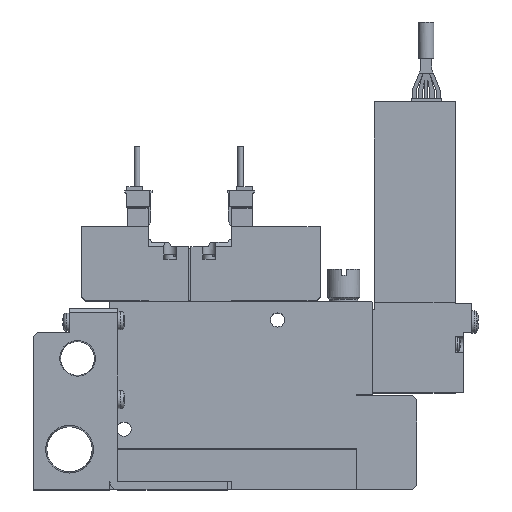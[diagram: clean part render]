
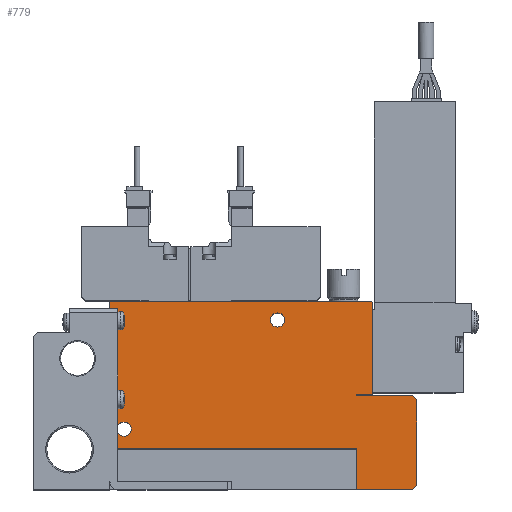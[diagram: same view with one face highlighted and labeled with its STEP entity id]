
A CAD part, top view. The second image highlights one B-rep face of the part: STEP entity #779.
In plain terms, the highlighted planar face has unit normal (0, 0, 1).
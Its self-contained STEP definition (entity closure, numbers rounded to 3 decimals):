
#779=ADVANCED_FACE('',(#1797,#1798,#1799),#1800,.F.);
#1797=FACE_OUTER_BOUND('',#3229,.T.);
#1798=FACE_BOUND('',#3230,.T.);
#1799=FACE_BOUND('',#3231,.T.);
#1800=PLANE('',#3232);
#3229=EDGE_LOOP('',(#6750,#6751,#6752,#6753,#6754,#6755,#6756,#6757,#6758,#6759,#6760,#6761,#6762,#6763));
#3230=EDGE_LOOP('',(#6764));
#3231=EDGE_LOOP('',(#6765));
#3232=AXIS2_PLACEMENT_3D('',#6766,#6767,#6768);
#6750=ORIENTED_EDGE('',*,*,#9609,.T.);
#6751=ORIENTED_EDGE('',*,*,#9635,.F.);
#6752=ORIENTED_EDGE('',*,*,#9636,.F.);
#6753=ORIENTED_EDGE('',*,*,#9637,.T.);
#6754=ORIENTED_EDGE('',*,*,#9638,.T.);
#6755=ORIENTED_EDGE('',*,*,#9639,.T.);
#6756=ORIENTED_EDGE('',*,*,#9630,.T.);
#6757=ORIENTED_EDGE('',*,*,#9640,.T.);
#6758=ORIENTED_EDGE('',*,*,#9641,.T.);
#6759=ORIENTED_EDGE('',*,*,#9642,.T.);
#6760=ORIENTED_EDGE('',*,*,#9643,.T.);
#6761=ORIENTED_EDGE('',*,*,#9644,.T.);
#6762=ORIENTED_EDGE('',*,*,#9645,.T.);
#6763=ORIENTED_EDGE('',*,*,#9646,.T.);
#6764=ORIENTED_EDGE('',*,*,#9647,.F.);
#6765=ORIENTED_EDGE('',*,*,#9648,.F.);
#6766=CARTESIAN_POINT('',(0.0,0.0,5.0));
#6767=DIRECTION('',(0.0,0.0,-1.0));
#6768=DIRECTION('',(0.0,-1.0,0.0));
#9609=EDGE_CURVE('',#11703,#11701,#11704,.T.);
#9630=EDGE_CURVE('',#11744,#11742,#11745,.T.);
#9635=EDGE_CURVE('',#11752,#11701,#11753,.T.);
#9636=EDGE_CURVE('',#11754,#11752,#11755,.T.);
#9637=EDGE_CURVE('',#11754,#11756,#11757,.T.);
#9638=EDGE_CURVE('',#11756,#11758,#11759,.T.);
#9639=EDGE_CURVE('',#11758,#11744,#11760,.T.);
#9640=EDGE_CURVE('',#11742,#11761,#11762,.T.);
#9641=EDGE_CURVE('',#11761,#11763,#11764,.T.);
#9642=EDGE_CURVE('',#11763,#11765,#11766,.T.);
#9643=EDGE_CURVE('',#11765,#11767,#11768,.T.);
#9644=EDGE_CURVE('',#11767,#11769,#11770,.T.);
#9645=EDGE_CURVE('',#11769,#11771,#11772,.T.);
#9646=EDGE_CURVE('',#11771,#11703,#11773,.T.);
#9647=EDGE_CURVE('',#11774,#11774,#11775,.T.);
#9648=EDGE_CURVE('',#11776,#11776,#11777,.T.);
#11701=VERTEX_POINT('',#15122);
#11703=VERTEX_POINT('',#15125);
#11704=LINE('',#15126,#15127);
#11742=VERTEX_POINT('',#15182);
#11744=VERTEX_POINT('',#15185);
#11745=LINE('',#15186,#15187);
#11752=VERTEX_POINT('',#15196);
#11753=LINE('',#15197,#15198);
#11754=VERTEX_POINT('',#15199);
#11755=LINE('',#15200,#15201);
#11756=VERTEX_POINT('',#15202);
#11757=LINE('',#15203,#15204);
#11758=VERTEX_POINT('',#15205);
#11759=LINE('',#15206,#15207);
#11760=LINE('',#15208,#15209);
#11761=VERTEX_POINT('',#15210);
#11762=LINE('',#15211,#15212);
#11763=VERTEX_POINT('',#15213);
#11764=LINE('',#15214,#15215);
#11765=VERTEX_POINT('',#15216);
#11766=LINE('',#15217,#15218);
#11767=VERTEX_POINT('',#15219);
#11768=LINE('',#15220,#15221);
#11769=VERTEX_POINT('',#15222);
#11770=LINE('',#15223,#15224);
#11771=VERTEX_POINT('',#15225);
#11772=LINE('',#15226,#15227);
#11773=LINE('',#15228,#15229);
#11774=VERTEX_POINT('',#15230);
#11775=CIRCLE('',#15231,1.75);
#11776=VERTEX_POINT('',#15232);
#11777=CIRCLE('',#15233,1.75);
#15122=CARTESIAN_POINT('',(0.0,10.1,5.0));
#15125=CARTESIAN_POINT('',(0.0,46.4,5.0));
#15126=CARTESIAN_POINT('',(0.0,46.4,5.0));
#15127=VECTOR('',#18547,1.0);
#15182=CARTESIAN_POINT('',(75.0,23.25,5.0));
#15185=CARTESIAN_POINT('',(76.0,22.25,5.0));
#15186=CARTESIAN_POINT('',(76.0,22.25,5.0));
#15187=VECTOR('',#18572,1.0);
#15196=CARTESIAN_POINT('',(61.1,10.1,5.0));
#15197=CARTESIAN_POINT('',(61.1,10.1,5.0));
#15198=VECTOR('',#18581,1.0);
#15199=CARTESIAN_POINT('',(61.1,0.0,5.0));
#15200=CARTESIAN_POINT('',(61.1,0.0,5.0));
#15201=VECTOR('',#18582,1.0);
#15202=CARTESIAN_POINT('',(75.0,0.0,5.0));
#15203=CARTESIAN_POINT('',(0.0,0.0,5.0));
#15204=VECTOR('',#18583,1.0);
#15205=CARTESIAN_POINT('',(76.0,1.0,5.0));
#15206=CARTESIAN_POINT('',(75.0,0.0,5.0));
#15207=VECTOR('',#18584,1.0);
#15208=CARTESIAN_POINT('',(76.0,1.0,5.0));
#15209=VECTOR('',#18585,1.0);
#15210=CARTESIAN_POINT('',(61.0,23.25,5.0));
#15211=CARTESIAN_POINT('',(75.0,23.25,5.0));
#15212=VECTOR('',#18586,1.0);
#15213=CARTESIAN_POINT('',(61.0,23.5,5.0));
#15214=CARTESIAN_POINT('',(61.0,23.25,5.0));
#15215=VECTOR('',#18587,1.0);
#15216=CARTESIAN_POINT('',(65.0,23.5,5.0));
#15217=CARTESIAN_POINT('',(61.0,23.5,5.0));
#15218=VECTOR('',#18588,1.0);
#15219=CARTESIAN_POINT('',(65.0,46.4,5.0));
#15220=CARTESIAN_POINT('',(65.0,23.5,5.0));
#15221=VECTOR('',#18589,1.0);
#15222=CARTESIAN_POINT('',(64.8,46.6,5.0));
#15223=CARTESIAN_POINT('',(65.0,46.4,5.0));
#15224=VECTOR('',#18590,1.0);
#15225=CARTESIAN_POINT('',(0.2,46.6,5.0));
#15226=CARTESIAN_POINT('',(64.8,46.6,5.0));
#15227=VECTOR('',#18591,1.0);
#15228=CARTESIAN_POINT('',(0.2,46.6,5.0));
#15229=VECTOR('',#18592,1.0);
#15230=CARTESIAN_POINT('',(5.25,15.0,5.0));
#15231=AXIS2_PLACEMENT_3D('',#18593,#18594,#18595);
#15232=CARTESIAN_POINT('',(43.25,42.0,5.0));
#15233=AXIS2_PLACEMENT_3D('',#18596,#18597,#18598);
#18547=DIRECTION('',(0.0,-1.0,0.0));
#18572=DIRECTION('',(-0.707,0.707,0.0));
#18581=DIRECTION('',(-1.0,0.0,0.0));
#18582=DIRECTION('',(0.0,1.0,0.0));
#18583=DIRECTION('',(1.0,0.0,0.0));
#18584=DIRECTION('',(0.707,0.707,0.0));
#18585=DIRECTION('',(0.0,1.0,0.0));
#18586=DIRECTION('',(-1.0,0.0,0.0));
#18587=DIRECTION('',(0.0,1.0,0.0));
#18588=DIRECTION('',(1.0,0.,0.0));
#18589=DIRECTION('',(0.0,1.0,0.0));
#18590=DIRECTION('',(-0.707,0.707,0.0));
#18591=DIRECTION('',(-1.0,0.0,0.0));
#18592=DIRECTION('',(-0.707,-0.707,0.0));
#18593=CARTESIAN_POINT('',(3.5,15.0,5.0));
#18594=DIRECTION('',(0.0,0.0,1.0));
#18595=DIRECTION('',(1.0,0.0,0.0));
#18596=CARTESIAN_POINT('',(41.5,42.0,5.0));
#18597=DIRECTION('',(0.0,0.0,1.0));
#18598=DIRECTION('',(1.0,0.0,0.0));
